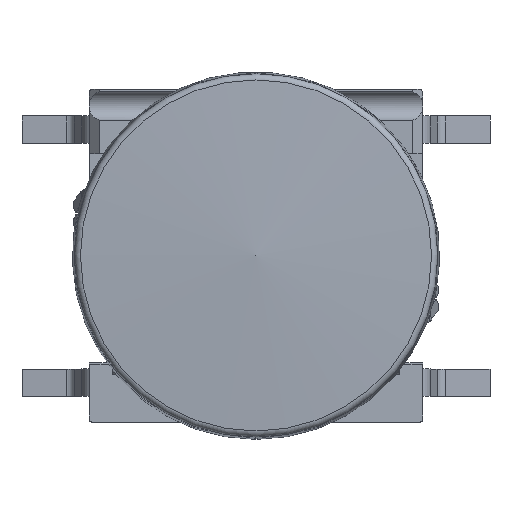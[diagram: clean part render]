
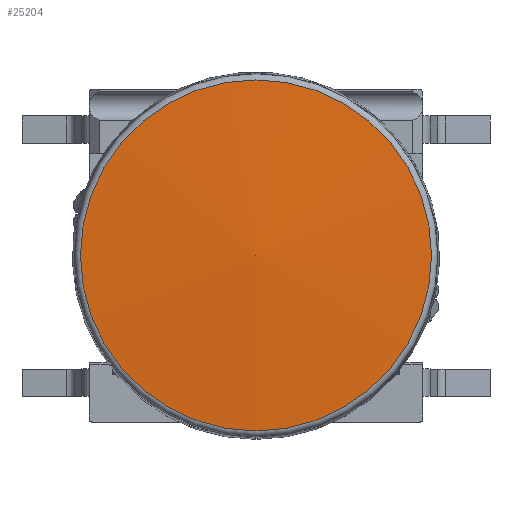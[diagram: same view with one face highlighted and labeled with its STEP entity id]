
A CAD part, top view. The second image highlights one B-rep face of the part: STEP entity #25204.
In plain terms, the highlighted spherical face has radius 60 mm.
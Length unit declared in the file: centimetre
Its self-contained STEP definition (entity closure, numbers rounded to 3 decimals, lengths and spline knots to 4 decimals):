
#12=SPHERICAL_SURFACE($,#26604,6.);
#1387=FACE_OUTER_BOUND($,#2703,.T.);
#2703=EDGE_LOOP($,(#16229));
#8843=CIRCLE($,#26605,0.5271);
#9633=VERTEX_POINT($,#37381);
#12189=EDGE_CURVE($,#9633,#9633,#8843,.T.);
#16229=ORIENTED_EDGE($,*,*,#12189,.T.);
#25204=ADVANCED_FACE($,(#1387),#12,.T.);
#26604=AXIS2_PLACEMENT_3D($,#37380,#28844,#28845);
#26605=AXIS2_PLACEMENT_3D($,#37382,#28846,#28847);
#28844=DIRECTION('center_axis',(0.,0.,
-1.));
#28845=DIRECTION('ref_axis',(1.,0.,0.));
#28846=DIRECTION('center_axis',(0.,0.,
1.));
#28847=DIRECTION('ref_axis',(0.,1.,0.));
#37380=CARTESIAN_POINT('Origin',(0.,0.,
-4.739));
#37381=CARTESIAN_POINT('',(0.,-0.5271,1.2378));
#37382=CARTESIAN_POINT('Origin',(0.,0.,
1.2378));
